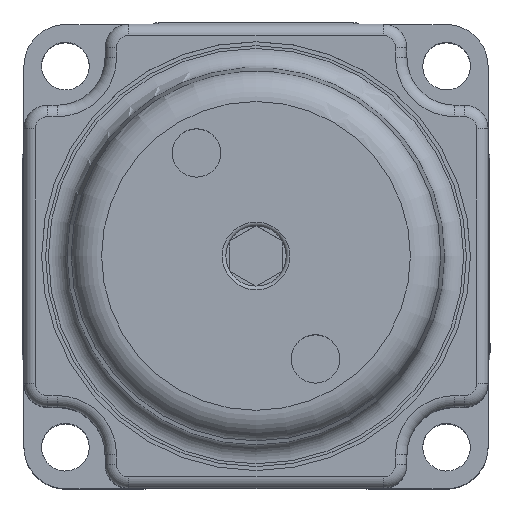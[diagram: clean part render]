
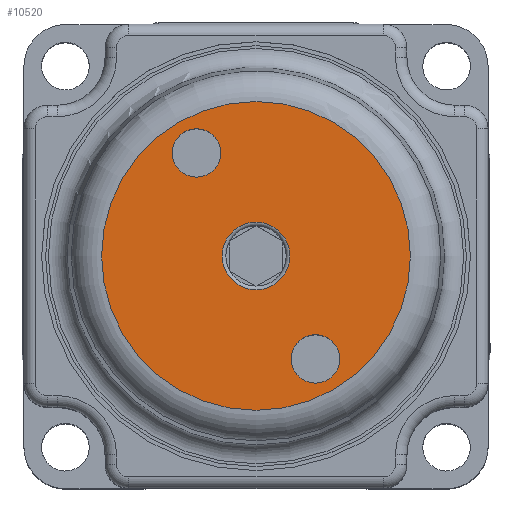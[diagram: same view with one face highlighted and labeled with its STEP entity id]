
A CAD part, top view. The second image highlights one B-rep face of the part: STEP entity #10520.
In plain terms, the highlighted planar face has unit normal (0, 0, 1).
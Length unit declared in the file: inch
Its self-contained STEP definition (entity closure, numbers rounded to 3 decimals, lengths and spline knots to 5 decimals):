
#277=FACE_BOUND('',#1304,.T.);
#278=FACE_BOUND('',#1305,.T.);
#279=FACE_BOUND('',#1306,.T.);
#379=PLANE('',#11164);
#694=FACE_OUTER_BOUND('',#1303,.T.);
#1303=EDGE_LOOP('',(#6627,#6628));
#1304=EDGE_LOOP('',(#6629,#6630));
#1305=EDGE_LOOP('',(#6631,#6632));
#1306=EDGE_LOOP('',(#6633,#6634));
#1980=CIRCLE('',#11151,0.089);
#1985=CIRCLE('',#11156,0.089);
#1992=CIRCLE('',#11165,0.4051);
#1993=CIRCLE('',#11166,0.4051);
#1994=CIRCLE('',#11167,0.0635);
#1995=CIRCLE('',#11168,0.0635);
#1996=CIRCLE('',#11169,0.0635);
#1997=CIRCLE('',#11170,0.0635);
#3992=VERTEX_POINT('',#17416);
#3993=VERTEX_POINT('',#17417);
#4003=VERTEX_POINT('',#17442);
#4004=VERTEX_POINT('',#17443);
#4005=VERTEX_POINT('',#17446);
#4006=VERTEX_POINT('',#17447);
#4007=VERTEX_POINT('',#17450);
#4008=VERTEX_POINT('',#17451);
#5023=EDGE_CURVE('',#3992,#3993,#1980,.T.);
#5028=EDGE_CURVE('',#3993,#3992,#1985,.T.);
#5036=EDGE_CURVE('',#4003,#4004,#1992,.T.);
#5037=EDGE_CURVE('',#4004,#4003,#1993,.T.);
#5038=EDGE_CURVE('',#4005,#4006,#1994,.T.);
#5039=EDGE_CURVE('',#4006,#4005,#1995,.T.);
#5040=EDGE_CURVE('',#4007,#4008,#1996,.T.);
#5041=EDGE_CURVE('',#4008,#4007,#1997,.T.);
#6627=ORIENTED_EDGE('',*,*,#5036,.T.);
#6628=ORIENTED_EDGE('',*,*,#5037,.T.);
#6629=ORIENTED_EDGE('',*,*,#5038,.T.);
#6630=ORIENTED_EDGE('',*,*,#5039,.T.);
#6631=ORIENTED_EDGE('',*,*,#5040,.T.);
#6632=ORIENTED_EDGE('',*,*,#5041,.T.);
#6633=ORIENTED_EDGE('',*,*,#5023,.F.);
#6634=ORIENTED_EDGE('',*,*,#5028,.F.);
#10520=ADVANCED_FACE('',(#694,#277,#278,#279),#379,.T.);
#11151=AXIS2_PLACEMENT_3D('',#17418,#12532,#12533);
#11156=AXIS2_PLACEMENT_3D('',#17426,#12542,#12543);
#11164=AXIS2_PLACEMENT_3D('',#17441,#12559,#12560);
#11165=AXIS2_PLACEMENT_3D('',#17444,#12561,#12562);
#11166=AXIS2_PLACEMENT_3D('',#17445,#12563,#12564);
#11167=AXIS2_PLACEMENT_3D('',#17448,#12565,#12566);
#11168=AXIS2_PLACEMENT_3D('',#17449,#12567,#12568);
#11169=AXIS2_PLACEMENT_3D('',#17452,#12569,#12570);
#11170=AXIS2_PLACEMENT_3D('',#17453,#12571,#12572);
#12532=DIRECTION('center_axis',(0.,0.,1.));
#12533=DIRECTION('ref_axis',(0.5,-0.866,0.));
#12542=DIRECTION('center_axis',(0.,0.,1.));
#12543=DIRECTION('ref_axis',(0.5,-0.866,0.));
#12559=DIRECTION('center_axis',(0.,0.,1.));
#12560=DIRECTION('ref_axis',(1.,0.,0.));
#12561=DIRECTION('center_axis',(0.,0.,1.));
#12562=DIRECTION('ref_axis',(-0.5,0.866,0.));
#12563=DIRECTION('center_axis',(0.,0.,1.));
#12564=DIRECTION('ref_axis',(-0.5,0.866,0.));
#12565=DIRECTION('center_axis',(0.,0.,-1.));
#12566=DIRECTION('ref_axis',(0.414,0.91,0.));
#12567=DIRECTION('center_axis',(0.,0.,-1.));
#12568=DIRECTION('ref_axis',(0.414,0.91,0.));
#12569=DIRECTION('center_axis',(0.,0.,-1.));
#12570=DIRECTION('ref_axis',(0.414,0.91,0.));
#12571=DIRECTION('center_axis',(0.,0.,-1.));
#12572=DIRECTION('ref_axis',(0.414,0.91,0.));
#17416=CARTESIAN_POINT('',(-0.06494,0.20628,0.9997));
#17417=CARTESIAN_POINT('',(-0.05302,0.16178,0.9997));
#17418=CARTESIAN_POINT('Origin',(-0.14202,0.16178,0.9997));
#17426=CARTESIAN_POINT('Origin',(-0.14202,0.16178,0.9997));
#17441=CARTESIAN_POINT('Origin',(-0.49319,-0.04097,
0.9997));
#17442=CARTESIAN_POINT('',(0.20881,0.36433,0.9997));
#17443=CARTESIAN_POINT('',(-0.54712,0.16178,0.9997));
#17444=CARTESIAN_POINT('Origin',(-0.14202,0.16178,0.9997));
#17445=CARTESIAN_POINT('Origin',(-0.14202,0.16178,0.9997));
#17446=CARTESIAN_POINT('',(-0.24303,0.46373,0.9997));
#17447=CARTESIAN_POINT('',(-0.35301,0.40023,0.9997));
#17448=CARTESIAN_POINT('Origin',(-0.29802,0.43198,0.9997));
#17449=CARTESIAN_POINT('Origin',(-0.29802,0.43198,0.9997));
#17450=CARTESIAN_POINT('',(0.06897,-0.07667,0.9997));
#17451=CARTESIAN_POINT('',(-0.04101,-0.14017,0.9997));
#17452=CARTESIAN_POINT('Origin',(0.01398,-0.10842,
0.9997));
#17453=CARTESIAN_POINT('Origin',(0.01398,-0.10842,
0.9997));
